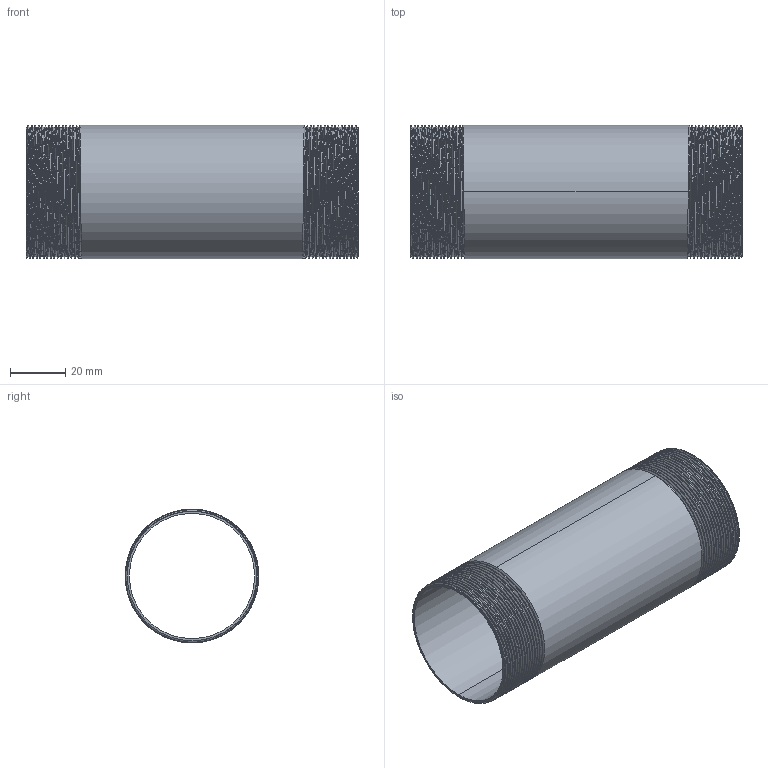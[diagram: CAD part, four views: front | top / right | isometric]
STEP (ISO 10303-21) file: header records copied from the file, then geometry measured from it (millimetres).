
FILE_DESCRIPTION (( 'STEP AP203' ), '1' );
FILE_NAME ('3D_R210_1 1-2x120_17185870.STEP', '2024-08-16T13:50:59', ( '' ), ( '' ), 'SwSTEP 2.0', 'SolidWorks 2024', '' );
FILE_SCHEMA (( 'CONFIG_CONTROL_DESIGN' ));
Length unit declared in the file: millimetre
Products named in the file (1): 3D_R210_1 1-2x120_17185870
Bounding box: 120 x 48.29 x 48.3 mm (x, y, z)
Volume: 23939.7 mm3; surface area: 38601 mm2
Topology: 1 solids, 1 shells, 82 faces, 232 edges, 152 vertices
Faces by surface type: cone 68, bspline 6, cylinder 4, plane 4
Entity records: 14349 total; most frequent: CARTESIAN_POINT 12447, ORIENTED_EDGE 464, DIRECTION 256, EDGE_CURVE 232, VERTEX_POINT 152, B_SPLINE_CURVE_WITH_KNOTS 134, AXIS2_PLACEMENT_3D 89, EDGE_LOOP 84
